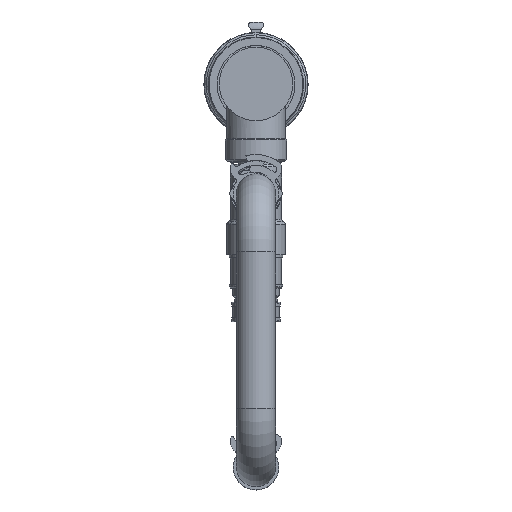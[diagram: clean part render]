
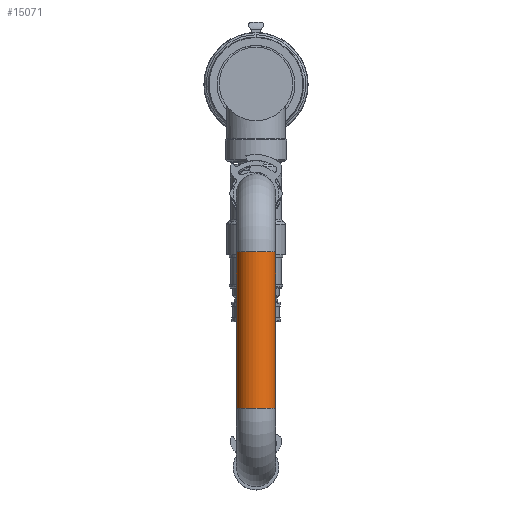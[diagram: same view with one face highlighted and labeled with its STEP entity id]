
A CAD part, top view. The second image highlights one B-rep face of the part: STEP entity #15071.
In plain terms, the highlighted cylindrical face has radius 12.7 mm (diameter 25.4 mm), a full revolution.
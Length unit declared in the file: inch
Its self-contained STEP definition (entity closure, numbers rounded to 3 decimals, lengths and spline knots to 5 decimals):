
#698 = CARTESIAN_POINT ( 'NONE',  ( 0.5, -8.29575, 7.75 ) ) ;
#2436 = ORIENTED_EDGE ( 'NONE', *, *, #21779, .T. ) ;
#3782 = DIRECTION ( 'NONE',  ( 0., -1., 0. ) ) ;
#4662 = CYLINDRICAL_SURFACE ( 'NONE', #20863, 0.5 ) ;
#5278 = FACE_OUTER_BOUND ( 'NONE', #16596, .T. ) ;
#5512 = VERTEX_POINT ( 'NONE', #6542 ) ;
#6353 = DIRECTION ( 'NONE',  ( 0., 1., 0. ) ) ;
#6542 = CARTESIAN_POINT ( 'NONE',  ( 0.5, -4.29575, 7.75 ) ) ;
#7944 = AXIS2_PLACEMENT_3D ( 'NONE', #20292, #8936, #22146 ) ;
#8936 = DIRECTION ( 'NONE',  ( 0., 1., 0. ) ) ;
#9134 = EDGE_LOOP ( 'NONE', ( #15114 ) ) ;
#11226 = VERTEX_POINT ( 'NONE', #698 ) ;
#13847 = AXIS2_PLACEMENT_3D ( 'NONE', #17842, #6353, #19684 ) ;
#15071 = ADVANCED_FACE ( 'NONE', ( #5278, #19893 ), #4662, .T. ) ;
#15114 = ORIENTED_EDGE ( 'NONE', *, *, #23924, .F. ) ;
#16596 = EDGE_LOOP ( 'NONE', ( #2436 ) ) ;
#17243 = DIRECTION ( 'NONE',  ( -1., 0., 0. ) ) ;
#17842 = CARTESIAN_POINT ( 'NONE',  ( 0., -8.29575, 7.75 ) ) ;
#19086 = CARTESIAN_POINT ( 'NONE',  ( 0., -4.29575, 7.75 ) ) ;
#19684 = DIRECTION ( 'NONE',  ( 1., 0., 0. ) ) ;
#19893 = FACE_OUTER_BOUND ( 'NONE', #9134, .T. ) ;
#20292 = CARTESIAN_POINT ( 'NONE',  ( 0., -4.29575, 7.75 ) ) ;
#20863 = AXIS2_PLACEMENT_3D ( 'NONE', #19086, #3782, #17243 ) ;
#21779 = EDGE_CURVE ( 'NONE', #11226, #11226, #23397, .T. ) ;
#22146 = DIRECTION ( 'NONE',  ( 1., 0., 0. ) ) ;
#22193 = CIRCLE ( 'NONE', #7944, 0.5 ) ;
#23397 = CIRCLE ( 'NONE', #13847, 0.5 ) ;
#23924 = EDGE_CURVE ( 'NONE', #5512, #5512, #22193, .T. ) ;
